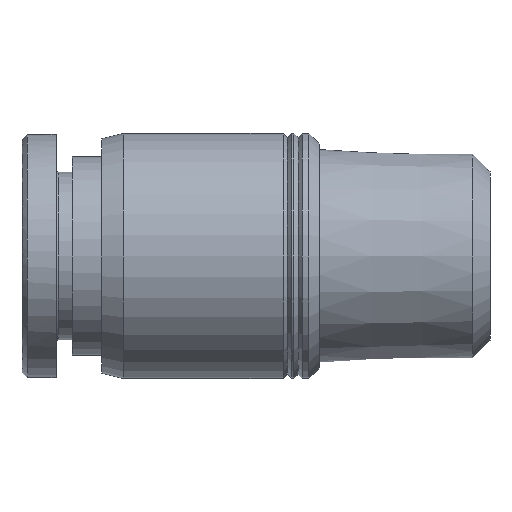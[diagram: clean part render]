
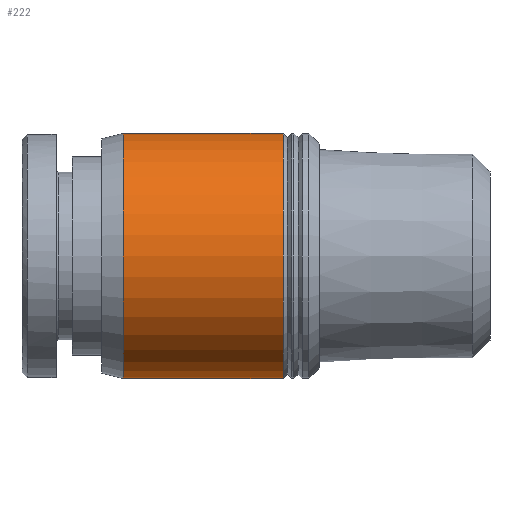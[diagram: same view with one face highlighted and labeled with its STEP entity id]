
A CAD part, left-side view. The second image highlights one B-rep face of the part: STEP entity #222.
In plain terms, the highlighted cylindrical face has radius 5.75 mm (diameter 11.5 mm), a full revolution.
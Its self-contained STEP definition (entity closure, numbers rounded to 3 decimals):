
#188=CARTESIAN_POINT('',(0.0,9.7,5.75));
#189=VERTEX_POINT('',#188);
#190=CARTESIAN_POINT('',(0.0,9.7,0.0));
#191=DIRECTION('',(0.0,1.0,0.0));
#192=DIRECTION('',(1.0,0.0,0.0));
#193=AXIS2_PLACEMENT_3D('',#190,#191,#192);
#194=CIRCLE('',#193,5.75);
#195=EDGE_CURVE('',#189,#189,#194,.T.);
#203=CARTESIAN_POINT('',(0.0,12.6,0.0));
#204=DIRECTION('',(0.0,-1.0,0.0));
#205=DIRECTION('',(1.0,0.0,0.0));
#206=AXIS2_PLACEMENT_3D('',#203,#204,#205);
#207=CYLINDRICAL_SURFACE('',#206,5.75);
#208=ORIENTED_EDGE('',*,*,#195,.T.);
#209=EDGE_LOOP('',(#208));
#210=FACE_OUTER_BOUND('',#209,.T.);
#211=CARTESIAN_POINT('',(5.75,17.2,0.0));
#212=VERTEX_POINT('',#211);
#213=CARTESIAN_POINT('',(0.0,17.2,0.0));
#214=DIRECTION('',(0.0,-1.0,0.0));
#215=DIRECTION('',(1.0,0.0,0.0));
#216=AXIS2_PLACEMENT_3D('',#213,#214,#215);
#217=CIRCLE('',#216,5.75);
#218=EDGE_CURVE('',#212,#212,#217,.T.);
#219=ORIENTED_EDGE('',*,*,#218,.T.);
#220=EDGE_LOOP('',(#219));
#221=FACE_BOUND('',#220,.T.);
#222=ADVANCED_FACE('',(#210,#221),#207,.T.);
